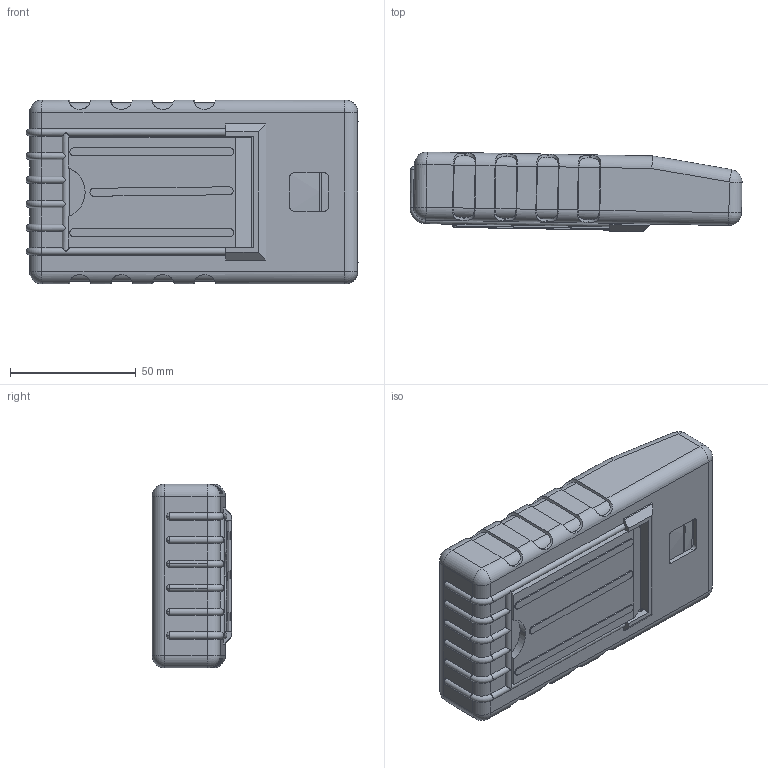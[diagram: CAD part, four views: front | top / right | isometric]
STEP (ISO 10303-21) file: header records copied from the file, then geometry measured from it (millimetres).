
FILE_DESCRIPTION (( 'STEP AP214' ), '1' );
FILE_NAME ('65-12-2A-R-BO.STEP', '2020-09-24T13:40:07', ( 'Rudy' ), ( '' ), 'SwSTEP 2.0', 'SolidWorks 2014', '' );
FILE_SCHEMA (( 'AUTOMOTIVE_DESIGN' ));
Length unit declared in the file: millimetre
Products named in the file (7): 65 Stand; 65 RBT Sloped; 65 PCB W BAT; 65 panel; 65 TOP; 65 base 2A; 65-12-2A-R-BO
Assembly tree (6 placements, depth 2):
  65-12-2A-R-BO
    65 base 2A
    65 TOP
    65 panel
    65 PCB W BAT
    65 RBT Sloped
    65 Stand
Bounding box: 131.76 x 31.64 x 73.03 mm (x, y, z)
Volume: 111719.5 mm3; surface area: 100302.4 mm2
Topology: 6 solids, 6 shells, 771 faces, 2123 edges, 1368 vertices
Faces by surface type: plane 461, cylinder 214, bspline 42, torus 28, cone 16, sphere 10
Entity records: 30219 total; most frequent: CARTESIAN_POINT 9520, ORIENTED_EDGE 4222, DIRECTION 3741, EDGE_CURVE 2111, LINE 1427, VECTOR 1427, VERTEX_POINT 1368, AXIS2_PLACEMENT_3D 1157
